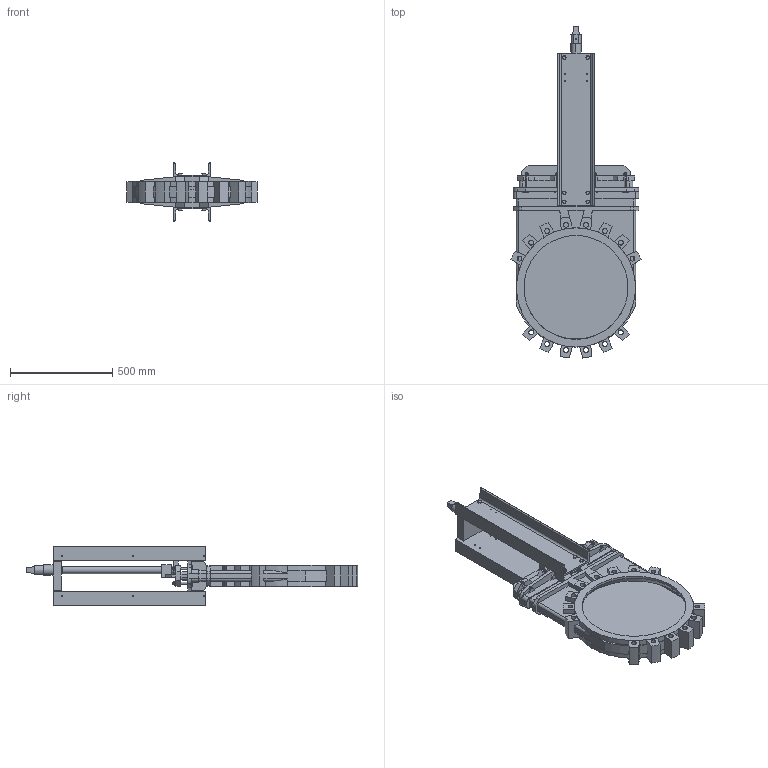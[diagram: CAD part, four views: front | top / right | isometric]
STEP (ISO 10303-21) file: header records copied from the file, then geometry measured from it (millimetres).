
FILE_DESCRIPTION (( 'STEP AP203' ), '1' );
FILE_NAME ('VG S N DN500.STEP', '2010-05-04T07:15:20', ( 'farex' ), ( '' ), 'SwSTEP 2.0', 'SolidWorks 2009', '' );
FILE_SCHEMA (( 'CONFIG_CONTROL_DESIGN' ));
Length unit declared in the file: millimetre
Products named in the file (1): VG S N DN500
Bounding box: 635.7 x 1622.04 x 290 mm (x, y, z)
Volume: 29111008.1 mm3; surface area: 2952112 mm2
Topology: 1 solids, 1 shells, 1098 faces, 2945 edges, 1918 vertices
Faces by surface type: plane 623, cylinder 313, cone 105, bspline 41, torus 16
Entity records: 38119 total; most frequent: CARTESIAN_POINT 10345, ORIENTED_EDGE 5890, DIRECTION 5626, EDGE_CURVE 2945, VERTEX_POINT 1918, AXIS2_PLACEMENT_3D 1913, VECTOR 1800, LINE 1800
